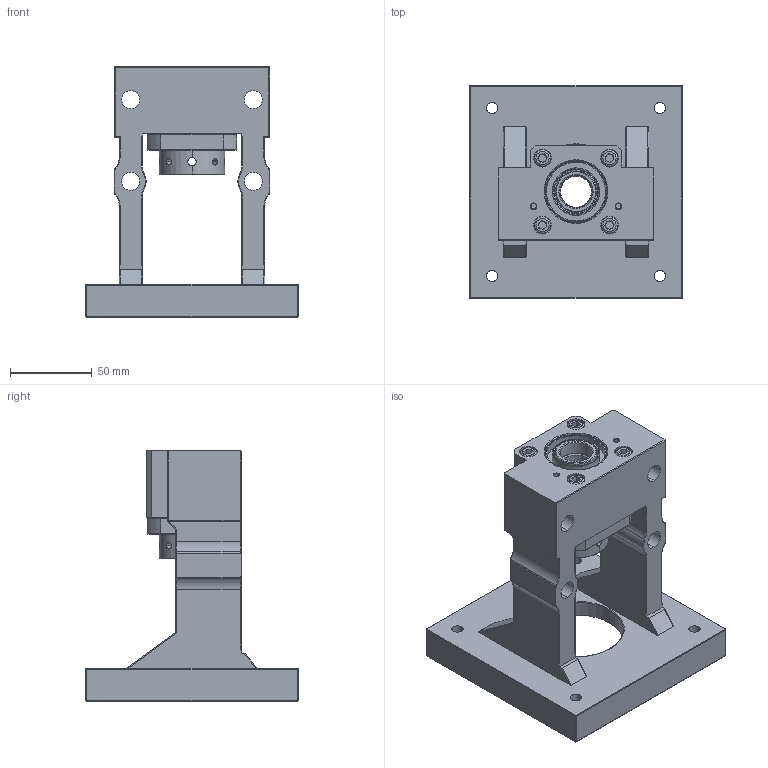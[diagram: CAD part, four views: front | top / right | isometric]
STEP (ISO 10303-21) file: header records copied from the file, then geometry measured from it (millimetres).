
FILE_DESCRIPTION (( 'STEP AP203' ), '1' );
FILE_NAME ('MBCS20-G.STEP', '2026-03-02T03:12:54', ( '' ), ( '' ), 'SwSTEP 2.0', 'SolidWorks 2018', '' );
FILE_SCHEMA (( 'CONFIG_CONTROL_DESIGN' ));
Length unit declared in the file: millimetre
Products named in the file (2): MBCS20-G
Bounding box: 130 x 130 x 153 mm (x, y, z)
Surface area: 108733.8 mm2 (no closed solid volume)
Topology: 0 solids, 20 shells, 388 faces, 999 edges, 616 vertices
Faces by surface type: cylinder 170, plane 98, cone 58, torus 52, sphere 10
Entity records: 12559 total; most frequent: CARTESIAN_POINT 2933, DIRECTION 2129, ORIENTED_EDGE 1812, EDGE_CURVE 981, AXIS2_PLACEMENT_3D 846, VERTEX_POINT 616, EDGE_LOOP 457, CIRCLE 456
